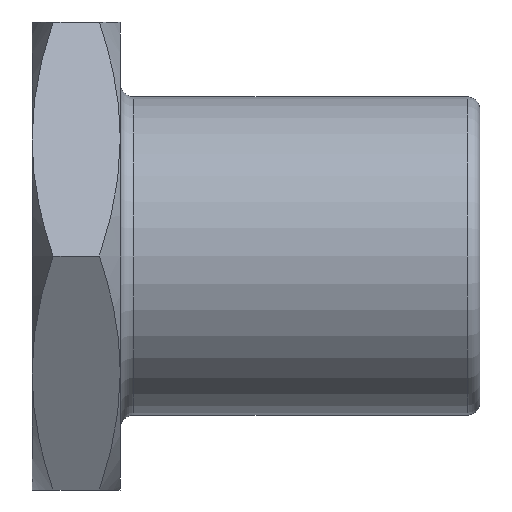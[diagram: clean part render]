
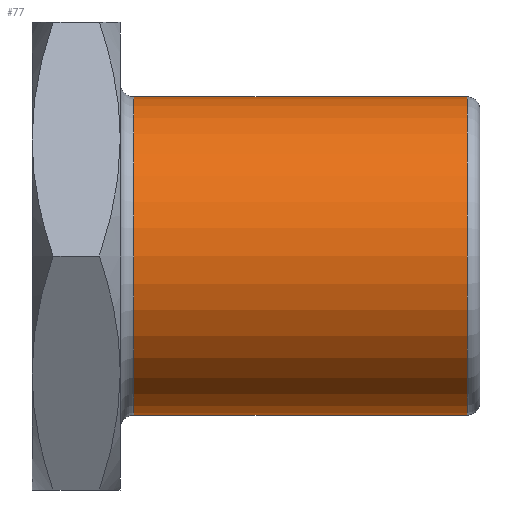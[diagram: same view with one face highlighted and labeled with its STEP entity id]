
A CAD part, front view. The second image highlights one B-rep face of the part: STEP entity #77.
In plain terms, the highlighted cylindrical face has radius 4.76 mm (diameter 9.52 mm), a full revolution.
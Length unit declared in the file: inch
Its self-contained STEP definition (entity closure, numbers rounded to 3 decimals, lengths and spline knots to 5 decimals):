
#77 = ADVANCED_FACE( '', ( #165, #166 ), #167, .T. );
#165 = FACE_OUTER_BOUND( '', #262, .T. );
#166 = FACE_OUTER_BOUND( '', #263, .T. );
#167 = CYLINDRICAL_SURFACE( '', #264, 0.1874 );
#262 = EDGE_LOOP( '', ( #411 ) );
#263 = EDGE_LOOP( '', ( #412 ) );
#264 = AXIS2_PLACEMENT_3D( '', #413, #414, #415 );
#411 = ORIENTED_EDGE( '', *, *, #551, .F. );
#412 = ORIENTED_EDGE( '', *, *, #569, .T. );
#413 = CARTESIAN_POINT( '', ( 0.52756, 0., 0. ) );
#414 = DIRECTION( '', ( -1., 0., 0. ) );
#415 = DIRECTION( '', ( 0., 0., -1. ) );
#551 = EDGE_CURVE( '', #650, #650, #651, .T. );
#569 = EDGE_CURVE( '', #674, #674, #675, .T. );
#650 = VERTEX_POINT( '', #850 );
#651 = CIRCLE( '', #851, 0.1874 );
#674 = VERTEX_POINT( '', #891 );
#675 = CIRCLE( '', #892, 0.1874 );
#850 = CARTESIAN_POINT( '', ( 0.51256, 0., -0.1874 ) );
#851 = AXIS2_PLACEMENT_3D( '', #975, #976, #977 );
#891 = CARTESIAN_POINT( '', ( 0.11994, 0., -0.1874 ) );
#892 = AXIS2_PLACEMENT_3D( '', #1002, #1003, #1004 );
#975 = CARTESIAN_POINT( '', ( 0.51256, 0., 0. ) );
#976 = DIRECTION( '', ( 1., 0., 0. ) );
#977 = DIRECTION( '', ( 0., 0., -1. ) );
#1002 = CARTESIAN_POINT( '', ( 0.11994, 0., 0. ) );
#1003 = DIRECTION( '', ( 1., 0., 0. ) );
#1004 = DIRECTION( '', ( 0., 0., -1. ) );
